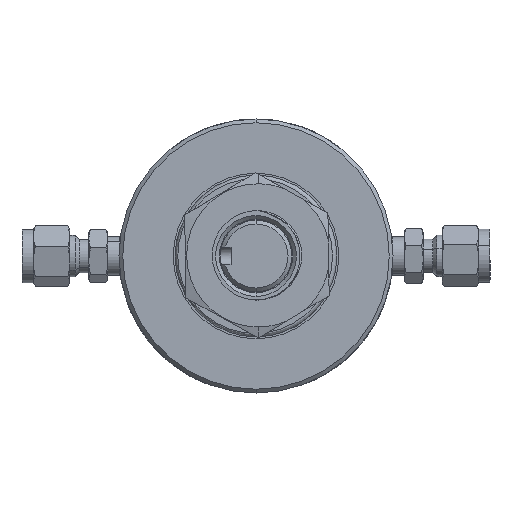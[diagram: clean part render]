
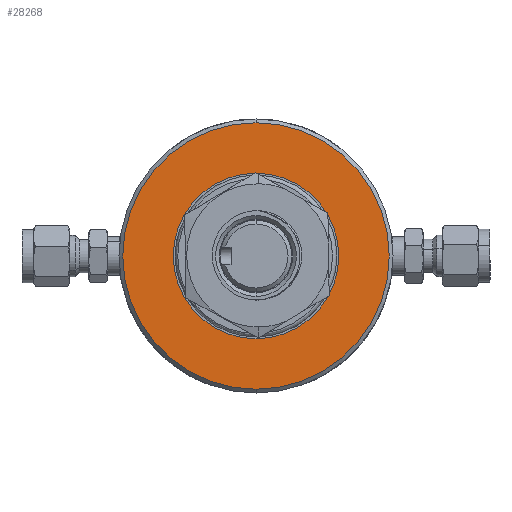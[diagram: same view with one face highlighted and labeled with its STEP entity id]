
A CAD part, left-side view. The second image highlights one B-rep face of the part: STEP entity #28268.
In plain terms, the highlighted planar face has unit normal (-1, 0, 0).
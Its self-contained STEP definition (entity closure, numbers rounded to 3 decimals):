
#2881 = CARTESIAN_POINT ( 'NONE',  ( 90.84, 0., -12.7 ) ) ;
#2898 = PLANE ( 'NONE',  #33720 ) ;
#2900 = DIRECTION ( 'NONE',  ( 0., 0., 1. ) ) ;
#2931 = DIRECTION ( 'NONE',  ( -1., 0., 0. ) ) ;
#9890 = AXIS2_PLACEMENT_3D ( 'NONE', #27140, #27119, #27156 ) ;
#9894 = AXIS2_PLACEMENT_3D ( 'NONE', #23340, #23332, #23353 ) ;
#9910 = AXIS2_PLACEMENT_3D ( 'NONE', #27598, #27579, #27602 ) ;
#10056 = ORIENTED_EDGE ( 'NONE', *, *, #32722, .F. ) ;
#16302 = CARTESIAN_POINT ( 'NONE',  ( 90.84, 0., -35.45 ) ) ;
#16336 = CARTESIAN_POINT ( 'NONE',  ( 90.84, 0., 35.45 ) ) ;
#16354 = CARTESIAN_POINT ( 'NONE',  ( 90.84, 0., -22.005 ) ) ;
#16356 = CARTESIAN_POINT ( 'NONE',  ( 90.84, 0., 22.005 ) ) ;
#23332 = DIRECTION ( 'NONE',  ( 1., 0., 0. ) ) ;
#23340 = CARTESIAN_POINT ( 'NONE',  ( 90.84, 0., 0. ) ) ;
#23353 = DIRECTION ( 'NONE',  ( 0., 0., -1. ) ) ;
#25237 = CIRCLE ( 'NONE', #9894, 35.45 ) ;
#25358 = CIRCLE ( 'NONE', #9910, 35.45 ) ;
#25382 = CIRCLE ( 'NONE', #9890, 22.005 ) ;
#25391 = CIRCLE ( 'NONE', #27878, 22.005 ) ;
#26876 = CARTESIAN_POINT ( 'NONE',  ( 90.84, 0., 0. ) ) ;
#26892 = DIRECTION ( 'NONE',  ( 1., 0., 0. ) ) ;
#26895 = DIRECTION ( 'NONE',  ( 0., 0., 1. ) ) ;
#27119 = DIRECTION ( 'NONE',  ( 1., 0., 0. ) ) ;
#27140 = CARTESIAN_POINT ( 'NONE',  ( 90.84, 0., 0. ) ) ;
#27156 = DIRECTION ( 'NONE',  ( 0., 0., 1. ) ) ;
#27579 = DIRECTION ( 'NONE',  ( 1., 0., 0. ) ) ;
#27598 = CARTESIAN_POINT ( 'NONE',  ( 90.84, 0., 0. ) ) ;
#27602 = DIRECTION ( 'NONE',  ( 0., 0., -1. ) ) ;
#27878 = AXIS2_PLACEMENT_3D ( 'NONE', #26876, #26892, #26895 ) ;
#28268 = ADVANCED_FACE ( 'NONE', ( #34329, #34347 ), #2898, .T. ) ;
#30546 = ORIENTED_EDGE ( 'NONE', *, *, #33851, .F. ) ;
#30562 = ORIENTED_EDGE ( 'NONE', *, *, #32836, .T. ) ;
#30580 = ORIENTED_EDGE ( 'NONE', *, *, #33899, .T. ) ;
#31405 = VERTEX_POINT ( 'NONE', #16354 ) ;
#31410 = VERTEX_POINT ( 'NONE', #16336 ) ;
#31412 = VERTEX_POINT ( 'NONE', #16356 ) ;
#31423 = VERTEX_POINT ( 'NONE', #16302 ) ;
#32048 = EDGE_LOOP ( 'NONE', ( #30580, #30562 ) ) ;
#32062 = EDGE_LOOP ( 'NONE', ( #30546, #10056 ) ) ;
#32722 = EDGE_CURVE ( 'NONE', #31410, #31423, #25237, .T. ) ;
#32836 = EDGE_CURVE ( 'NONE', #31405, #31412, #25382, .T. ) ;
#33720 = AXIS2_PLACEMENT_3D ( 'NONE', #2881, #2931, #2900 ) ;
#33851 = EDGE_CURVE ( 'NONE', #31423, #31410, #25358, .T. ) ;
#33899 = EDGE_CURVE ( 'NONE', #31412, #31405, #25391, .T. ) ;
#34329 = FACE_BOUND ( 'NONE', #32048, .T. ) ;
#34347 = FACE_OUTER_BOUND ( 'NONE', #32062, .T. ) ;
